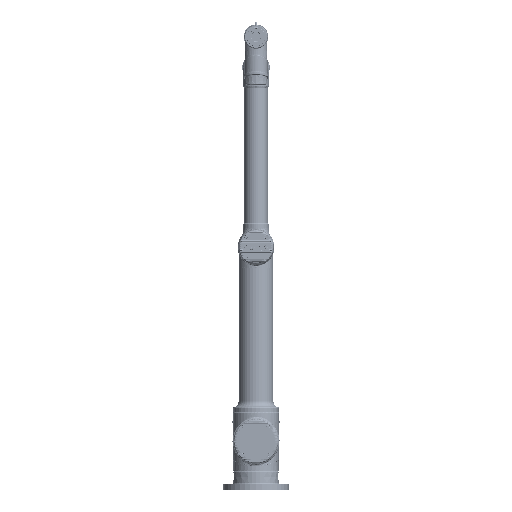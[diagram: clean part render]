
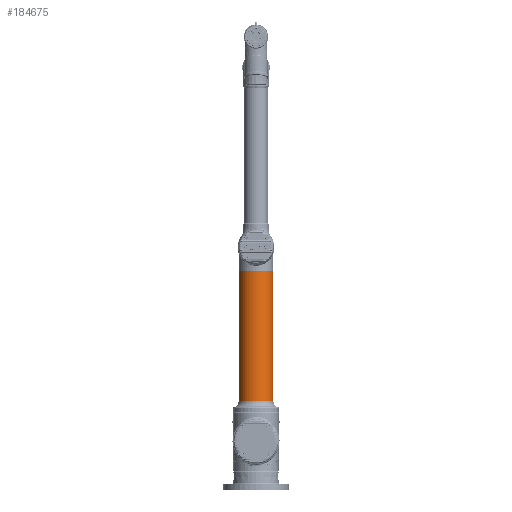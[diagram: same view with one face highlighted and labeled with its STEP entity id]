
A CAD part, left-side view. The second image highlights one B-rep face of the part: STEP entity #184675.
In plain terms, the highlighted cylindrical face has radius 58 mm (diameter 116 mm), a partial arc.
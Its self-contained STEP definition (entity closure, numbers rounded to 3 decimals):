
#5035 = ORIENTED_EDGE ( 'NONE', *, *, #131510, .F. ) ;
#8985 = DIRECTION ( 'NONE',  ( 0., 0., 1. ) ) ;
#17650 = CIRCLE ( 'NONE', #130877, 58. ) ;
#20214 = AXIS2_PLACEMENT_3D ( 'NONE', #169266, #131183, #41810 ) ;
#25548 = CARTESIAN_POINT ( 'NONE',  ( 0., 0., 18.3 ) ) ;
#27568 = EDGE_CURVE ( 'NONE', #143803, #211262, #199009, .T. ) ;
#38299 = FACE_OUTER_BOUND ( 'NONE', #117463, .T. ) ;
#39377 = CARTESIAN_POINT ( 'NONE',  ( 58., 0., 451.762 ) ) ;
#41810 = DIRECTION ( 'NONE',  ( 1., 0., 0. ) ) ;
#56802 = AXIS2_PLACEMENT_3D ( 'NONE', #105859, #173397, #77024 ) ;
#69908 = CIRCLE ( 'NONE', #20214, 58. ) ;
#76540 = DIRECTION ( 'NONE',  ( 1., 0., 0. ) ) ;
#77024 = DIRECTION ( 'NONE',  ( -1., 0., 0. ) ) ;
#85120 = LINE ( 'NONE', #165977, #196749 ) ;
#105859 = CARTESIAN_POINT ( 'NONE',  ( 0., 0., 498. ) ) ;
#112339 = CARTESIAN_POINT ( 'NONE',  ( -58., 0., 451.762 ) ) ;
#112869 = CARTESIAN_POINT ( 'NONE',  ( 58., 0., 18.3 ) ) ;
#117463 = EDGE_LOOP ( 'NONE', ( #131764, #5035, #156006, #120575 ) ) ;
#120575 = ORIENTED_EDGE ( 'NONE', *, *, #136154, .T. ) ;
#128406 = CARTESIAN_POINT ( 'NONE',  ( -58., 0., 18.3 ) ) ;
#130877 = AXIS2_PLACEMENT_3D ( 'NONE', #25548, #8985, #76540 ) ;
#131183 = DIRECTION ( 'NONE',  ( 0., 0., 1. ) ) ;
#131510 = EDGE_CURVE ( 'NONE', #165799, #143803, #69908, .T. ) ;
#131764 = ORIENTED_EDGE ( 'NONE', *, *, #27568, .F. ) ;
#136154 = EDGE_CURVE ( 'NONE', #174544, #211262, #17650, .T. ) ;
#138833 = VECTOR ( 'NONE', #216698, 1000. ) ;
#143803 = VERTEX_POINT ( 'NONE', #39377 ) ;
#156006 = ORIENTED_EDGE ( 'NONE', *, *, #199496, .T. ) ;
#165799 = VERTEX_POINT ( 'NONE', #112339 ) ;
#165977 = CARTESIAN_POINT ( 'NONE',  ( -58., 0., 498. ) ) ;
#169266 = CARTESIAN_POINT ( 'NONE',  ( 0., 0., 451.762 ) ) ;
#172311 = CYLINDRICAL_SURFACE ( 'NONE', #56802, 58. ) ;
#173397 = DIRECTION ( 'NONE',  ( 0., 0., -1. ) ) ;
#174544 = VERTEX_POINT ( 'NONE', #128406 ) ;
#182409 = CARTESIAN_POINT ( 'NONE',  ( 58., 0., 498. ) ) ;
#184675 = ADVANCED_FACE ( 'NONE', ( #38299 ), #172311, .T. ) ;
#196749 = VECTOR ( 'NONE', #201383, 1000. ) ;
#199009 = LINE ( 'NONE', #182409, #138833 ) ;
#199496 = EDGE_CURVE ( 'NONE', #165799, #174544, #85120, .T. ) ;
#201383 = DIRECTION ( 'NONE',  ( 0., 0., -1. ) ) ;
#211262 = VERTEX_POINT ( 'NONE', #112869 ) ;
#216698 = DIRECTION ( 'NONE',  ( 0., 0., -1. ) ) ;
